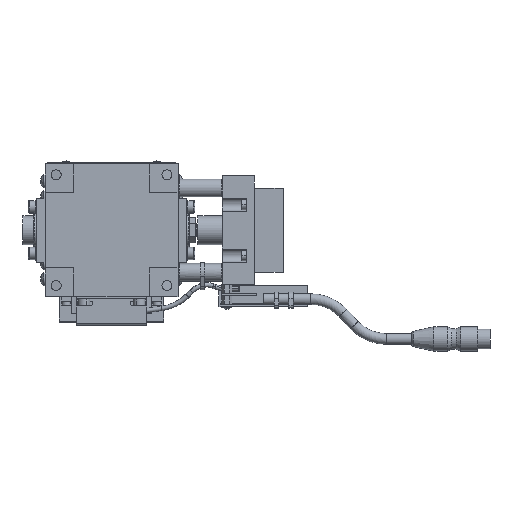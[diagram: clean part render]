
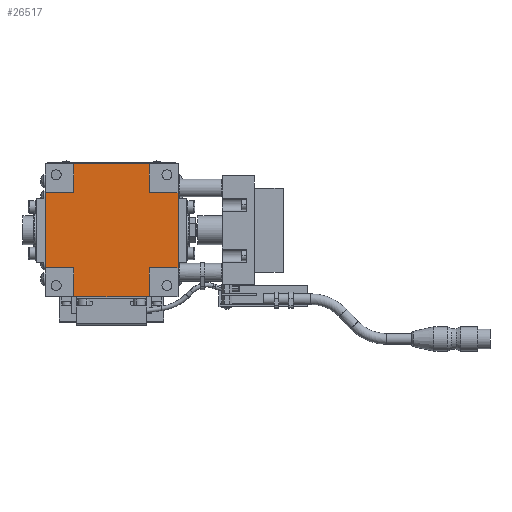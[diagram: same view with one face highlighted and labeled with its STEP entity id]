
A CAD part, front view. The second image highlights one B-rep face of the part: STEP entity #26517.
In plain terms, the highlighted planar face has unit normal (0, -1, 0).
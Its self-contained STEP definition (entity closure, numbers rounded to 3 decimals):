
#676 = VERTEX_POINT ( 'NONE', #26099 ) ;
#834 = LINE ( 'NONE', #1080, #28464 ) ;
#992 = LINE ( 'NONE', #15075, #28227 ) ;
#1080 = CARTESIAN_POINT ( 'NONE',  ( -30., 0.3, 17. ) ) ;
#1236 = CARTESIAN_POINT ( 'NONE',  ( -17., 0.3, 17. ) ) ;
#1515 = CARTESIAN_POINT ( 'NONE',  ( 17., 0.3, 17. ) ) ;
#1821 = VERTEX_POINT ( 'NONE', #28996 ) ;
#1893 = CARTESIAN_POINT ( 'NONE',  ( 17., 0.3, -30. ) ) ;
#3055 = DIRECTION ( 'NONE',  ( -1., 0., 0. ) ) ;
#3333 = EDGE_CURVE ( 'NONE', #24022, #4956, #18162, .T. ) ;
#3818 = VECTOR ( 'NONE', #17078, 1000. ) ;
#3933 = CARTESIAN_POINT ( 'NONE',  ( 17., 0.3, 17. ) ) ;
#4085 = CARTESIAN_POINT ( 'NONE',  ( -17., 0.3, 30. ) ) ;
#4494 = VECTOR ( 'NONE', #27156, 1000. ) ;
#4956 = VERTEX_POINT ( 'NONE', #10444 ) ;
#6055 = ORIENTED_EDGE ( 'NONE', *, *, #15656, .T. ) ;
#6442 = EDGE_CURVE ( 'NONE', #29893, #676, #13640, .T. ) ;
#6519 = ORIENTED_EDGE ( 'NONE', *, *, #7715, .T. ) ;
#6817 = VERTEX_POINT ( 'NONE', #27830 ) ;
#6906 = CARTESIAN_POINT ( 'NONE',  ( 0., 0.3, 0. ) ) ;
#7097 = ORIENTED_EDGE ( 'NONE', *, *, #21652, .T. ) ;
#7262 = EDGE_CURVE ( 'NONE', #11320, #27889, #19782, .T. ) ;
#7715 = EDGE_CURVE ( 'NONE', #27889, #22238, #10689, .T. ) ;
#8371 = ORIENTED_EDGE ( 'NONE', *, *, #14154, .T. ) ;
#8753 = DIRECTION ( 'NONE',  ( 0., 0., -1. ) ) ;
#8891 = VECTOR ( 'NONE', #13575, 1000. ) ;
#9296 = DIRECTION ( 'NONE',  ( 0., 0., 1. ) ) ;
#10309 = EDGE_CURVE ( 'NONE', #1821, #11320, #12345, .T. ) ;
#10444 = CARTESIAN_POINT ( 'NONE',  ( -17., 0.3, -17. ) ) ;
#10689 = LINE ( 'NONE', #20556, #4494 ) ;
#11320 = VERTEX_POINT ( 'NONE', #26788 ) ;
#11438 = DIRECTION ( 'NONE',  ( 0., 0., 1. ) ) ;
#11500 = EDGE_CURVE ( 'NONE', #22238, #6817, #13027, .T. ) ;
#11816 = ORIENTED_EDGE ( 'NONE', *, *, #11500, .T. ) ;
#12345 = LINE ( 'NONE', #15179, #29808 ) ;
#12467 = VERTEX_POINT ( 'NONE', #1515 ) ;
#12491 = CARTESIAN_POINT ( 'NONE',  ( 17., 0.3, 17. ) ) ;
#12526 = VERTEX_POINT ( 'NONE', #27515 ) ;
#12847 = CARTESIAN_POINT ( 'NONE',  ( -30., 0.3, -17. ) ) ;
#13027 = LINE ( 'NONE', #30040, #23894 ) ;
#13575 = DIRECTION ( 'NONE',  ( 0., 0., 1. ) ) ;
#13640 = LINE ( 'NONE', #1236, #3818 ) ;
#14062 = VECTOR ( 'NONE', #8753, 1000. ) ;
#14154 = EDGE_CURVE ( 'NONE', #12467, #20918, #15052, .T. ) ;
#14333 = CARTESIAN_POINT ( 'NONE',  ( 17., 0.3, 30. ) ) ;
#15052 = LINE ( 'NONE', #3933, #8891 ) ;
#15075 = CARTESIAN_POINT ( 'NONE',  ( -17., 0.3, 30. ) ) ;
#15179 = CARTESIAN_POINT ( 'NONE',  ( -17., 0.3, -30. ) ) ;
#15407 = LINE ( 'NONE', #17340, #21982 ) ;
#15656 = EDGE_CURVE ( 'NONE', #4956, #1821, #23175, .T. ) ;
#16280 = AXIS2_PLACEMENT_3D ( 'NONE', #6906, #18421, #20652 ) ;
#16659 = CARTESIAN_POINT ( 'NONE',  ( -30., 0.3, -17. ) ) ;
#16977 = ORIENTED_EDGE ( 'NONE', *, *, #18302, .T. ) ;
#17078 = DIRECTION ( 'NONE',  ( 0., 0., -1. ) ) ;
#17219 = DIRECTION ( 'NONE',  ( -1., 0., 0. ) ) ;
#17340 = CARTESIAN_POINT ( 'NONE',  ( -30., 0.3, 17. ) ) ;
#17426 = EDGE_LOOP ( 'NONE', ( #6519, #11816, #25417, #8371, #27438, #27089, #7097, #16977, #26180, #6055, #20155, #26860 ) ) ;
#17808 = VECTOR ( 'NONE', #23473, 1000. ) ;
#18162 = LINE ( 'NONE', #16659, #17808 ) ;
#18302 = EDGE_CURVE ( 'NONE', #12526, #24022, #834, .T. ) ;
#18421 = DIRECTION ( 'NONE',  ( 0., 1., 0. ) ) ;
#19782 = LINE ( 'NONE', #1893, #28891 ) ;
#19884 = DIRECTION ( 'NONE',  ( -1., 0., 0. ) ) ;
#20155 = ORIENTED_EDGE ( 'NONE', *, *, #10309, .T. ) ;
#20356 = VECTOR ( 'NONE', #3055, 1000. ) ;
#20556 = CARTESIAN_POINT ( 'NONE',  ( 17., 0.3, -17. ) ) ;
#20652 = DIRECTION ( 'NONE',  ( -1., 0., 0. ) ) ;
#20918 = VERTEX_POINT ( 'NONE', #14333 ) ;
#21473 = FACE_OUTER_BOUND ( 'NONE', #17426, .T. ) ;
#21652 = EDGE_CURVE ( 'NONE', #676, #12526, #15407, .T. ) ;
#21982 = VECTOR ( 'NONE', #19884, 1000. ) ;
#22238 = VERTEX_POINT ( 'NONE', #29904 ) ;
#22673 = CARTESIAN_POINT ( 'NONE',  ( -17., 0.3, -30. ) ) ;
#23175 = LINE ( 'NONE', #22673, #14062 ) ;
#23473 = DIRECTION ( 'NONE',  ( 1., 0., 0. ) ) ;
#23884 = EDGE_CURVE ( 'NONE', #20918, #29893, #992, .T. ) ;
#23894 = VECTOR ( 'NONE', #9296, 1000. ) ;
#24022 = VERTEX_POINT ( 'NONE', #12847 ) ;
#24342 = DIRECTION ( 'NONE',  ( 0., 0., -1. ) ) ;
#25195 = PLANE ( 'NONE',  #16280 ) ;
#25417 = ORIENTED_EDGE ( 'NONE', *, *, #26688, .T. ) ;
#26099 = CARTESIAN_POINT ( 'NONE',  ( -17., 0.3, 17. ) ) ;
#26159 = LINE ( 'NONE', #12491, #20356 ) ;
#26180 = ORIENTED_EDGE ( 'NONE', *, *, #3333, .T. ) ;
#26517 = ADVANCED_FACE ( 'NONE', ( #21473 ), #25195, .F. ) ;
#26688 = EDGE_CURVE ( 'NONE', #6817, #12467, #26159, .T. ) ;
#26788 = CARTESIAN_POINT ( 'NONE',  ( 17., 0.3, -30. ) ) ;
#26860 = ORIENTED_EDGE ( 'NONE', *, *, #7262, .T. ) ;
#27089 = ORIENTED_EDGE ( 'NONE', *, *, #6442, .T. ) ;
#27156 = DIRECTION ( 'NONE',  ( 1., 0., 0. ) ) ;
#27438 = ORIENTED_EDGE ( 'NONE', *, *, #23884, .T. ) ;
#27515 = CARTESIAN_POINT ( 'NONE',  ( -30., 0.3, 17. ) ) ;
#27830 = CARTESIAN_POINT ( 'NONE',  ( 30., 0.3, 17. ) ) ;
#27889 = VERTEX_POINT ( 'NONE', #28107 ) ;
#28107 = CARTESIAN_POINT ( 'NONE',  ( 17., 0.3, -17. ) ) ;
#28227 = VECTOR ( 'NONE', #17219, 1000. ) ;
#28464 = VECTOR ( 'NONE', #24342, 1000. ) ;
#28891 = VECTOR ( 'NONE', #11438, 1000. ) ;
#28946 = DIRECTION ( 'NONE',  ( 1., 0., 0. ) ) ;
#28996 = CARTESIAN_POINT ( 'NONE',  ( -17., 0.3, -30. ) ) ;
#29808 = VECTOR ( 'NONE', #28946, 1000. ) ;
#29893 = VERTEX_POINT ( 'NONE', #4085 ) ;
#29904 = CARTESIAN_POINT ( 'NONE',  ( 30., 0.3, -17. ) ) ;
#30040 = CARTESIAN_POINT ( 'NONE',  ( 30., 0.3, 17. ) ) ;
